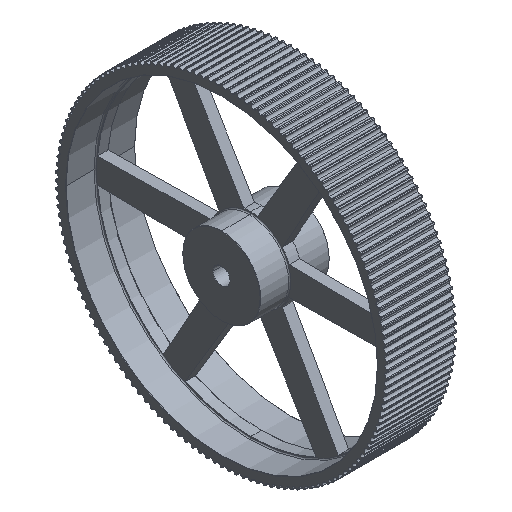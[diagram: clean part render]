
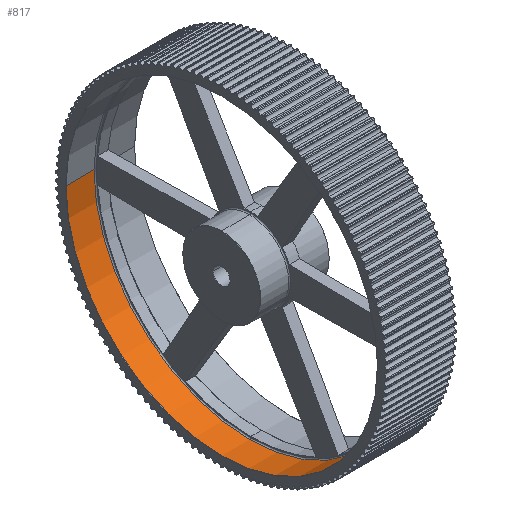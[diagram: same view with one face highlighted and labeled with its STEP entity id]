
A CAD part, isometric view. The second image highlights one B-rep face of the part: STEP entity #817.
In plain terms, the highlighted cylindrical face has radius 300 mm (diameter 600 mm), a partial arc.
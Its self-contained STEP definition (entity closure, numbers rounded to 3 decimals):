
#817=ADVANCED_FACE('',(#2375),#2376,.F.);
#2375=FACE_OUTER_BOUND('',#3961,.T.);
#2376=CYLINDRICAL_SURFACE('',#3962,300.0);
#3961=EDGE_LOOP('',(#10847,#10848,#10849,#10850,#10851));
#3962=AXIS2_PLACEMENT_3D('',#10852,#10853,#10854);
#10847=ORIENTED_EDGE('',*,*,#11031,.T.);
#10848=ORIENTED_EDGE('',*,*,#13312,.F.);
#10849=ORIENTED_EDGE('',*,*,#11034,.T.);
#10850=ORIENTED_EDGE('',*,*,#11148,.T.);
#10851=ORIENTED_EDGE('',*,*,#11038,.T.);
#10852=CARTESIAN_POINT('',(66.75,0.0,0.0));
#10853=DIRECTION('',(1.0,0.0,0.0));
#10854=DIRECTION('',(0.0,1.0,0.0));
#11031=EDGE_CURVE('',#13381,#13373,#13382,.T.);
#11034=EDGE_CURVE('',#13376,#13385,#13387,.T.);
#11038=EDGE_CURVE('',#13389,#13381,#13394,.T.);
#11148=EDGE_CURVE('',#13385,#13389,#13574,.T.);
#13312=EDGE_CURVE('',#13376,#13373,#17178,.T.);
#13373=VERTEX_POINT('',#17249);
#13376=VERTEX_POINT('',#17253);
#13381=VERTEX_POINT('',#17259);
#13382=LINE('',#17260,#17261);
#13385=VERTEX_POINT('',#17264);
#13387=LINE('',#17266,#17267);
#13389=VERTEX_POINT('',#17269);
#13394=CIRCLE('',#17274,300.0);
#13574=CIRCLE('',#17514,300.0);
#17178=CIRCLE('',#21838,300.0);
#17249=CARTESIAN_POINT('',(0.5,300.0,0.0));
#17253=CARTESIAN_POINT('',(0.5,-300.0,0.));
#17259=CARTESIAN_POINT('',(54.35,300.0,0.));
#17260=CARTESIAN_POINT('',(27.425,300.0,0.));
#17261=VECTOR('',#21919,1.0);
#17264=CARTESIAN_POINT('',(54.35,-300.0,0.));
#17266=CARTESIAN_POINT('',(27.425,-300.0,0.));
#17267=VECTOR('',#21926,1.0);
#17269=CARTESIAN_POINT('',(54.35,0.,-300.0));
#17274=AXIS2_PLACEMENT_3D('',#21936,#21937,#21938);
#17514=AXIS2_PLACEMENT_3D('',#22146,#22147,#22148);
#21838=AXIS2_PLACEMENT_3D('',#27198,#27199,#27200);
#21919=DIRECTION('',(-1.0,-0.0,0.0));
#21926=DIRECTION('',(1.0,-0.0,0.0));
#21936=CARTESIAN_POINT('',(54.35,0.0,0.0));
#21937=DIRECTION('',(1.0,0.0,0.0));
#21938=DIRECTION('',(0.0,1.0,0.0));
#22146=CARTESIAN_POINT('',(54.35,0.0,0.0));
#22147=DIRECTION('',(1.0,0.0,0.0));
#22148=DIRECTION('',(0.0,1.0,0.0));
#27198=CARTESIAN_POINT('',(0.5,0.0,0.0));
#27199=DIRECTION('',(1.0,0.0,0.0));
#27200=DIRECTION('',(0.0,1.0,0.0));
